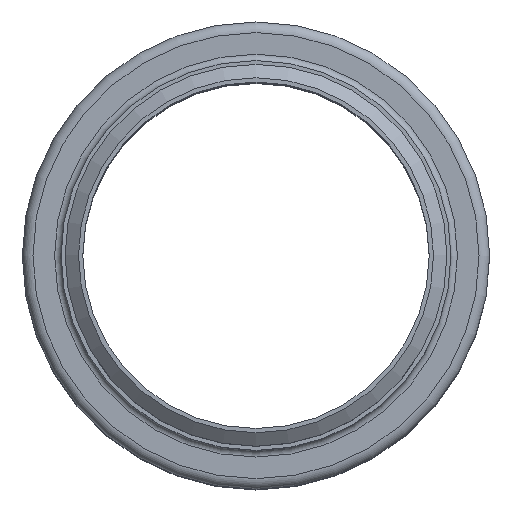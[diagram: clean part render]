
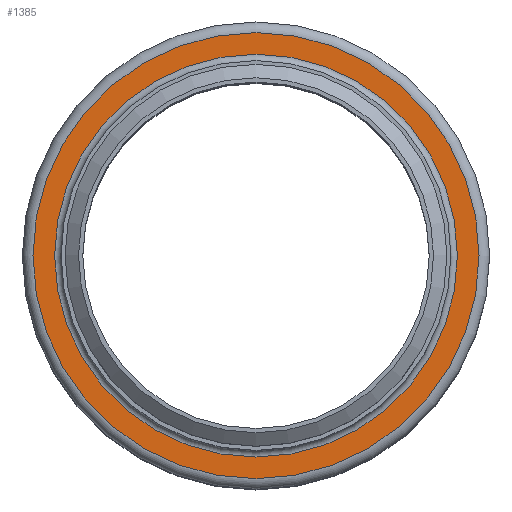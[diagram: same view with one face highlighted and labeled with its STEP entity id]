
A CAD part, top view. The second image highlights one B-rep face of the part: STEP entity #1385.
In plain terms, the highlighted planar face has unit normal (0, 0, 1).
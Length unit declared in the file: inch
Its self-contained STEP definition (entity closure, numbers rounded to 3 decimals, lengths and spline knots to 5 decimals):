
#155=FACE_BOUND('',#416,.T.);
#256=FACE_OUTER_BOUND('',#415,.T.);
#415=EDGE_LOOP('',(#1168));
#416=EDGE_LOOP('',(#1169));
#584=CIRCLE('',#1684,2.935);
#585=CIRCLE('',#1686,3.25);
#703=VERTEX_POINT('',#2631);
#704=VERTEX_POINT('',#2635);
#862=EDGE_CURVE('',#703,#703,#584,.T.);
#863=EDGE_CURVE('',#704,#704,#585,.T.);
#1168=ORIENTED_EDGE('',*,*,#863,.F.);
#1169=ORIENTED_EDGE('',*,*,#862,.T.);
#1284=PLANE('',#1685);
#1385=ADVANCED_FACE('',(#256,#155),#1284,.T.);
#1684=AXIS2_PLACEMENT_3D('',#2633,#2197,#2198);
#1685=AXIS2_PLACEMENT_3D('',#2634,#2199,#2200);
#1686=AXIS2_PLACEMENT_3D('',#2636,#2201,#2202);
#2197=DIRECTION('center_axis',(0.,0.,-1.));
#2198=DIRECTION('ref_axis',(1.,0.,0.));
#2199=DIRECTION('center_axis',(0.,0.,1.));
#2200=DIRECTION('ref_axis',(1.,0.,0.));
#2201=DIRECTION('center_axis',(0.,0.,-1.));
#2202=DIRECTION('ref_axis',(1.,0.,0.));
#2631=CARTESIAN_POINT('',(2.935,0.,-0.095));
#2633=CARTESIAN_POINT('Origin',(0.,0.,-0.095));
#2634=CARTESIAN_POINT('Origin',(0.,3.25,-0.095));
#2635=CARTESIAN_POINT('',(3.25,0.,-0.095));
#2636=CARTESIAN_POINT('Origin',(0.,0.,-0.095));
